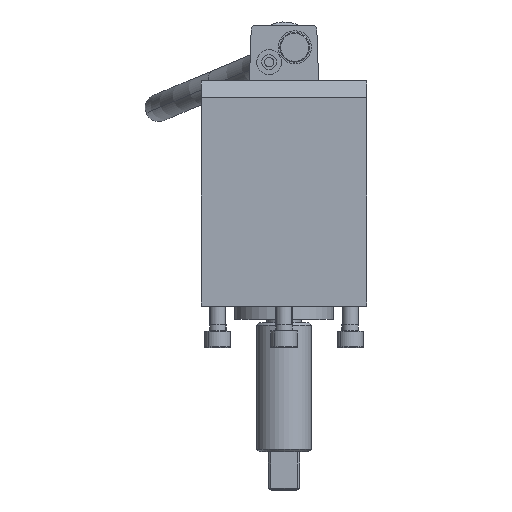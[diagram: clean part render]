
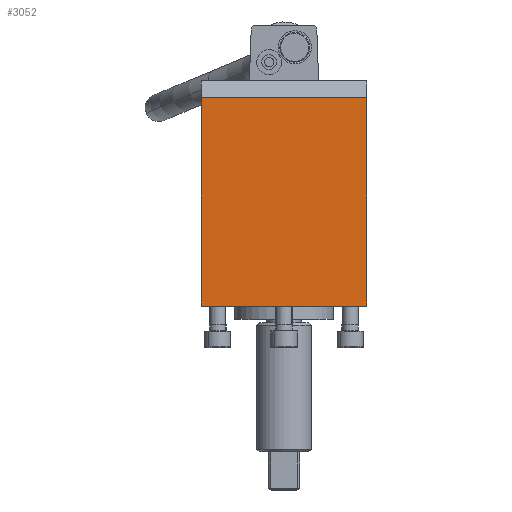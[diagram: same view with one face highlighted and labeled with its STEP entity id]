
A CAD part, top view. The second image highlights one B-rep face of the part: STEP entity #3052.
In plain terms, the highlighted planar face has unit normal (0, 0, 1).
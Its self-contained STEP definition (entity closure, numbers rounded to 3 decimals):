
#3018=AXIS2_PLACEMENT_3D('Plane Axis2P3D',#3015,#3016,#3017) ;
#2390=CARTESIAN_POINT('Line Origine',(0.,-86.,497.6)) ;
#2394=CARTESIAN_POINT('Vertex',(50.,-86.,497.6)) ;
#2396=CARTESIAN_POINT('Vertex',(-50.,-86.,497.6)) ;
#2986=CARTESIAN_POINT('Vertex',(-50.,40.,497.6)) ;
#2989=CARTESIAN_POINT('Line Origine',(0.,40.,497.6)) ;
#2993=CARTESIAN_POINT('Vertex',(50.,40.,497.6)) ;
#3015=CARTESIAN_POINT('Axis2P3D Location',(0.,-59.,497.6)) ;
#3020=CARTESIAN_POINT('Line Origine',(50.,-72.5,497.6)) ;
#3024=CARTESIAN_POINT('Vertex',(50.,-59.,497.6)) ;
#3027=CARTESIAN_POINT('Line Origine',(50.,-9.5,497.6)) ;
#3032=CARTESIAN_POINT('Line Origine',(-50.,-9.5,497.6)) ;
#3036=CARTESIAN_POINT('Vertex',(-50.,-59.,497.6)) ;
#3039=CARTESIAN_POINT('Line Origine',(-50.,-72.5,497.6)) ;
#2391=DIRECTION('Vector Direction',(-1.,0.,0.)) ;
#2990=DIRECTION('Vector Direction',(-1.,0.,0.)) ;
#3016=DIRECTION('Axis2P3D Direction',(0.,0.,1.)) ;
#3017=DIRECTION('Axis2P3D XDirection',(0.,1.,0.)) ;
#3021=DIRECTION('Vector Direction',(0.,-1.,0.)) ;
#3028=DIRECTION('Vector Direction',(0.,1.,0.)) ;
#3033=DIRECTION('Vector Direction',(0.,1.,0.)) ;
#3040=DIRECTION('Vector Direction',(0.,-1.,0.)) ;
#2392=VECTOR('Line Direction',#2391,1.) ;
#2991=VECTOR('Line Direction',#2990,1.) ;
#3022=VECTOR('Line Direction',#3021,1.) ;
#3029=VECTOR('Line Direction',#3028,1.) ;
#3034=VECTOR('Line Direction',#3033,1.) ;
#3041=VECTOR('Line Direction',#3040,1.) ;
#3045=ORIENTED_EDGE('',*,*,#3026,.F.) ;
#3046=ORIENTED_EDGE('',*,*,#3031,.F.) ;
#3047=ORIENTED_EDGE('',*,*,#2995,.T.) ;
#3048=ORIENTED_EDGE('',*,*,#3038,.T.) ;
#3049=ORIENTED_EDGE('',*,*,#3043,.T.) ;
#3050=ORIENTED_EDGE('',*,*,#2398,.F.) ;
#3052=ADVANCED_FACE('AW-325.1\\AW3125.1\\Hauptk\X2\00F6\X0\rper',(#3051),#3019,.T.) ;
#2398=EDGE_CURVE('',#2395,#2397,#2393,.T.) ;
#2995=EDGE_CURVE('',#2994,#2987,#2992,.T.) ;
#3026=EDGE_CURVE('',#3025,#2395,#3023,.T.) ;
#3031=EDGE_CURVE('',#2994,#3025,#3030,.F.) ;
#3038=EDGE_CURVE('',#2987,#3037,#3035,.F.) ;
#3043=EDGE_CURVE('',#3037,#2397,#3042,.T.) ;
#3044=EDGE_LOOP('',(#3045,#3046,#3047,#3048,#3049,#3050)) ;
#3051=FACE_OUTER_BOUND('',#3044,.T.) ;
#2393=LINE('Line',#2390,#2392) ;
#2992=LINE('Line',#2989,#2991) ;
#3023=LINE('Line',#3020,#3022) ;
#3030=LINE('Line',#3027,#3029) ;
#3035=LINE('Line',#3032,#3034) ;
#3042=LINE('Line',#3039,#3041) ;
#3019=PLANE('Plane',#3018) ;
#2395=VERTEX_POINT('',#2394) ;
#2397=VERTEX_POINT('',#2396) ;
#2987=VERTEX_POINT('',#2986) ;
#2994=VERTEX_POINT('',#2993) ;
#3025=VERTEX_POINT('',#3024) ;
#3037=VERTEX_POINT('',#3036) ;
